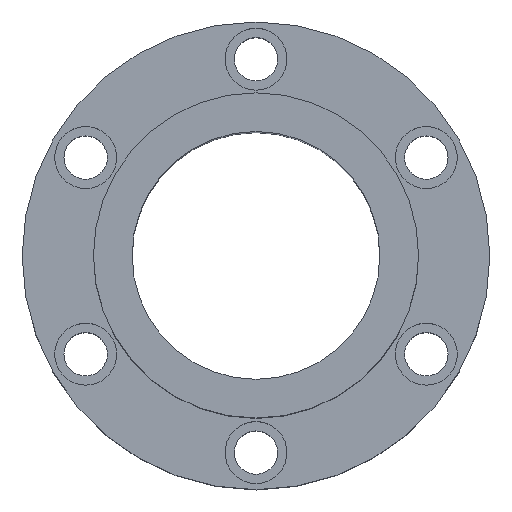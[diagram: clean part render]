
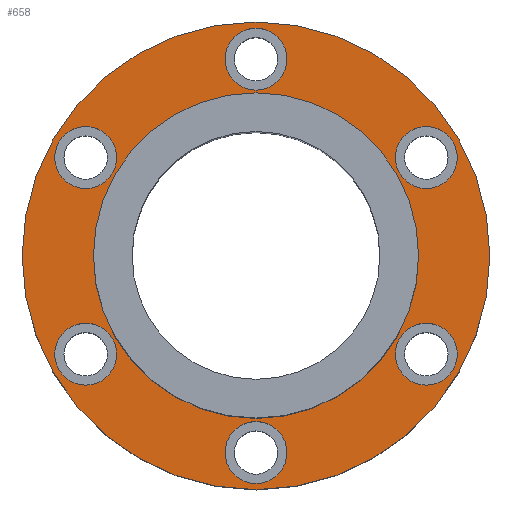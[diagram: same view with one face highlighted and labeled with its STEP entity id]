
A CAD part, top view. The second image highlights one B-rep face of the part: STEP entity #658.
In plain terms, the highlighted planar face has unit normal (0, 0, 1).
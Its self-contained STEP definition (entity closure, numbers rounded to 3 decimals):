
#1=CARTESIAN_POINT('',(0.,0.,27.5));
#2=DIRECTION('',(0.,0.,1.));
#3=DIRECTION('',(1.,0.,0.));
#4=AXIS2_PLACEMENT_3D('',#1,#2,#3);
#6=CARTESIAN_POINT('',(0.,0.,27.5));
#7=DIRECTION('',(0.,0.,1.));
#8=DIRECTION('',(-1.,0.,0.));
#9=AXIS2_PLACEMENT_3D('',#6,#7,#8);
#11=CARTESIAN_POINT('',(54.993,-31.75,27.5));
#12=DIRECTION('',(0.,0.,-1.));
#13=DIRECTION('',(-0.5,-0.866,0.));
#14=AXIS2_PLACEMENT_3D('',#11,#12,#13);
#16=CARTESIAN_POINT('',(54.993,-31.75,27.5));
#17=DIRECTION('',(0.,0.,-1.));
#18=DIRECTION('',(0.5,0.866,0.));
#19=AXIS2_PLACEMENT_3D('',#16,#17,#18);
#21=CARTESIAN_POINT('',(-54.993,-31.75,27.5));
#22=DIRECTION('',(0.,0.,-1.));
#23=DIRECTION('',(-0.5,0.866,0.));
#24=AXIS2_PLACEMENT_3D('',#21,#22,#23);
#26=CARTESIAN_POINT('',(-54.993,-31.75,27.5));
#27=DIRECTION('',(0.,0.,-1.));
#28=DIRECTION('',(0.5,-0.866,0.));
#29=AXIS2_PLACEMENT_3D('',#26,#27,#28);
#31=CARTESIAN_POINT('',(0.,63.5,27.5));
#32=DIRECTION('',(0.,0.,-1.));
#33=DIRECTION('',(1.,0.,0.));
#34=AXIS2_PLACEMENT_3D('',#31,#32,#33);
#36=CARTESIAN_POINT('',(0.,63.5,27.5));
#37=DIRECTION('',(0.,0.,-1.));
#38=DIRECTION('',(-1.,0.,0.));
#39=AXIS2_PLACEMENT_3D('',#36,#37,#38);
#41=CARTESIAN_POINT('',(0.,0.,27.5));
#42=DIRECTION('',(0.,0.,-1.));
#43=DIRECTION('',(1.,0.,0.));
#44=AXIS2_PLACEMENT_3D('',#41,#42,#43);
#46=CARTESIAN_POINT('',(0.,0.,27.5));
#47=DIRECTION('',(0.,0.,-1.));
#48=DIRECTION('',(-1.,0.,0.));
#49=AXIS2_PLACEMENT_3D('',#46,#47,#48);
#51=CARTESIAN_POINT('',(-54.993,31.75,27.5));
#52=DIRECTION('',(0.,0.,-1.));
#53=DIRECTION('',(0.5,0.866,0.));
#54=AXIS2_PLACEMENT_3D('',#51,#52,#53);
#56=CARTESIAN_POINT('',(-54.993,31.75,27.5));
#57=DIRECTION('',(0.,0.,-1.));
#58=DIRECTION('',(-0.5,-0.866,0.));
#59=AXIS2_PLACEMENT_3D('',#56,#57,#58);
#61=CARTESIAN_POINT('',(0.,-63.5,27.5));
#62=DIRECTION('',(0.,0.,-1.));
#63=DIRECTION('',(-1.,0.,0.));
#64=AXIS2_PLACEMENT_3D('',#61,#62,#63);
#66=CARTESIAN_POINT('',(0.,-63.5,27.5));
#67=DIRECTION('',(0.,0.,-1.));
#68=DIRECTION('',(1.,0.,0.));
#69=AXIS2_PLACEMENT_3D('',#66,#67,#68);
#71=CARTESIAN_POINT('',(54.993,31.75,27.5));
#72=DIRECTION('',(0.,0.,-1.));
#73=DIRECTION('',(0.5,-0.866,0.));
#74=AXIS2_PLACEMENT_3D('',#71,#72,#73);
#76=CARTESIAN_POINT('',(54.993,31.75,27.5));
#77=DIRECTION('',(0.,0.,-1.));
#78=DIRECTION('',(-0.5,0.866,0.));
#79=AXIS2_PLACEMENT_3D('',#76,#77,#78);
#533=CARTESIAN_POINT('',(-75.5,0.,27.5));
#535=VERTEX_POINT('',#533);
#537=CARTESIAN_POINT('',(75.5,0.,27.5));
#539=VERTEX_POINT('',#537);
#541=CARTESIAN_POINT('',(10.,63.5,27.5));
#543=VERTEX_POINT('',#541);
#545=CARTESIAN_POINT('',(-10.,63.5,27.5));
#547=VERTEX_POINT('',#545);
#549=CARTESIAN_POINT('',(-49.993,40.41,27.5));
#551=VERTEX_POINT('',#549);
#553=CARTESIAN_POINT('',(-59.993,23.09,27.5));
#555=VERTEX_POINT('',#553);
#557=CARTESIAN_POINT('',(-59.993,-23.09,27.5));
#559=VERTEX_POINT('',#557);
#561=CARTESIAN_POINT('',(-49.993,-40.41,27.5));
#563=VERTEX_POINT('',#561);
#565=CARTESIAN_POINT('',(-10.,-63.5,27.5));
#567=VERTEX_POINT('',#565);
#569=CARTESIAN_POINT('',(10.,-63.5,27.5));
#571=VERTEX_POINT('',#569);
#573=CARTESIAN_POINT('',(49.993,-40.41,27.5));
#575=VERTEX_POINT('',#573);
#577=CARTESIAN_POINT('',(59.993,-23.09,27.5));
#579=VERTEX_POINT('',#577);
#581=CARTESIAN_POINT('',(59.993,23.09,27.5));
#583=VERTEX_POINT('',#581);
#585=CARTESIAN_POINT('',(49.993,40.41,27.5));
#587=VERTEX_POINT('',#585);
#598=CARTESIAN_POINT('',(52.5,0.,27.5));
#600=VERTEX_POINT('',#598);
#602=CARTESIAN_POINT('',(-52.5,0.,27.5));
#604=VERTEX_POINT('',#602);
#605=CARTESIAN_POINT('',(0.,0.,27.5));
#606=DIRECTION('',(0.,0.,1.));
#607=DIRECTION('',(1.,0.,0.));
#608=AXIS2_PLACEMENT_3D('',#605,#606,#607);
#609=PLANE('',#608);
#611=ORIENTED_EDGE('',*,*,#610,.F.);
#613=ORIENTED_EDGE('',*,*,#612,.F.);
#614=EDGE_LOOP('',(#611,#613));
#615=FACE_OUTER_BOUND('',#614,.F.);
#617=ORIENTED_EDGE('',*,*,#616,.F.);
#619=ORIENTED_EDGE('',*,*,#618,.F.);
#620=EDGE_LOOP('',(#617,#619));
#621=FACE_BOUND('',#620,.F.);
#623=ORIENTED_EDGE('',*,*,#622,.F.);
#625=ORIENTED_EDGE('',*,*,#624,.F.);
#626=EDGE_LOOP('',(#623,#625));
#627=FACE_BOUND('',#626,.F.);
#629=ORIENTED_EDGE('',*,*,#628,.F.);
#631=ORIENTED_EDGE('',*,*,#630,.F.);
#632=EDGE_LOOP('',(#629,#631));
#633=FACE_BOUND('',#632,.F.);
#635=ORIENTED_EDGE('',*,*,#634,.F.);
#637=ORIENTED_EDGE('',*,*,#636,.F.);
#638=EDGE_LOOP('',(#635,#637));
#639=FACE_BOUND('',#638,.F.);
#641=ORIENTED_EDGE('',*,*,#640,.F.);
#643=ORIENTED_EDGE('',*,*,#642,.F.);
#644=EDGE_LOOP('',(#641,#643));
#645=FACE_BOUND('',#644,.F.);
#647=ORIENTED_EDGE('',*,*,#646,.F.);
#649=ORIENTED_EDGE('',*,*,#648,.F.);
#650=EDGE_LOOP('',(#647,#649));
#651=FACE_BOUND('',#650,.F.);
#653=ORIENTED_EDGE('',*,*,#652,.F.);
#655=ORIENTED_EDGE('',*,*,#654,.F.);
#656=EDGE_LOOP('',(#653,#655));
#657=FACE_BOUND('',#656,.F.);
#658=ADVANCED_FACE('',(#615,#621,#627,#633,#639,#645,#651,#657),#609,.T.);
#5=CIRCLE('',#4,75.5);
#10=CIRCLE('',#9,75.5);
#15=CIRCLE('',#14,10.);
#20=CIRCLE('',#19,10.);
#25=CIRCLE('',#24,10.);
#30=CIRCLE('',#29,10.);
#35=CIRCLE('',#34,10.);
#40=CIRCLE('',#39,10.);
#45=CIRCLE('',#44,52.5);
#50=CIRCLE('',#49,52.5);
#55=CIRCLE('',#54,10.);
#60=CIRCLE('',#59,10.);
#65=CIRCLE('',#64,10.);
#70=CIRCLE('',#69,10.);
#75=CIRCLE('',#74,10.);
#80=CIRCLE('',#79,10.);
#610=EDGE_CURVE('',#539,#535,#5,.T.);
#612=EDGE_CURVE('',#535,#539,#10,.T.);
#616=EDGE_CURVE('',#575,#579,#15,.T.);
#618=EDGE_CURVE('',#579,#575,#20,.T.);
#622=EDGE_CURVE('',#559,#563,#25,.T.);
#624=EDGE_CURVE('',#563,#559,#30,.T.);
#628=EDGE_CURVE('',#543,#547,#35,.T.);
#630=EDGE_CURVE('',#547,#543,#40,.T.);
#634=EDGE_CURVE('',#600,#604,#45,.T.);
#636=EDGE_CURVE('',#604,#600,#50,.T.);
#640=EDGE_CURVE('',#551,#555,#55,.T.);
#642=EDGE_CURVE('',#555,#551,#60,.T.);
#646=EDGE_CURVE('',#567,#571,#65,.T.);
#648=EDGE_CURVE('',#571,#567,#70,.T.);
#652=EDGE_CURVE('',#583,#587,#75,.T.);
#654=EDGE_CURVE('',#587,#583,#80,.T.);
